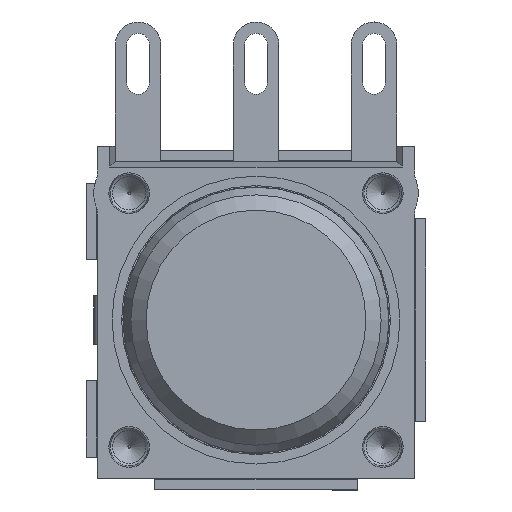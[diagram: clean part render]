
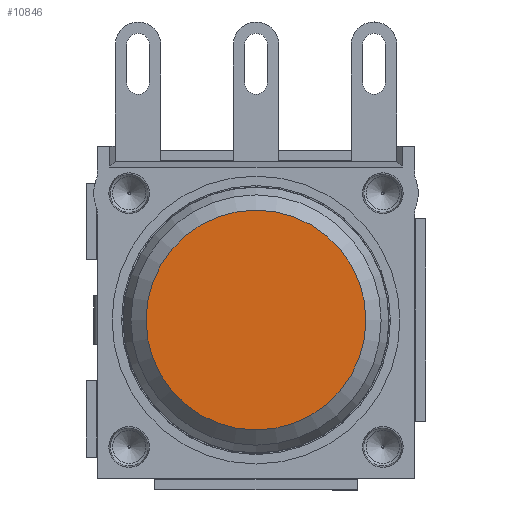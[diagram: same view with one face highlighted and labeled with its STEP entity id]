
A CAD part, left-side view. The second image highlights one B-rep face of the part: STEP entity #10846.
In plain terms, the highlighted planar face has unit normal (-1, 0, 0) as drawn and (0, 0, 1) by its records, which use the part's own axes.
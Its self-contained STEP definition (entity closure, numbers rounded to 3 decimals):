
#3935=ORIENTED_EDGE('',*,*,#6048,.T.);
#6048=EDGE_CURVE('',#7266,#7266,#7997,.T.);
#7266=VERTEX_POINT('',#18318);
#7997=CIRCLE('',#12375,4.334);
#8706=EDGE_LOOP('',(#3935));
#9643=FACE_BOUND('',#8706,.T.);
#10335=PLANE('',#12374);
#10846=ADVANCED_FACE('',(#9643),#10335,.T.);
#12374=AXIS2_PLACEMENT_3D('',#18316,#14761,#14762);
#12375=AXIS2_PLACEMENT_3D('',#18317,#14763,#14764);
#14761=DIRECTION('',(0.,0.,1.));
#14762=DIRECTION('',(1.,0.,0.));
#14763=DIRECTION('',(0.,0.,1.));
#14764=DIRECTION('',(1.,0.,0.));
#18316=CARTESIAN_POINT('',(0.,0.,1.4));
#18317=CARTESIAN_POINT('',(0.,0.,1.4));
#18318=CARTESIAN_POINT('',(4.334,0.,1.4));
